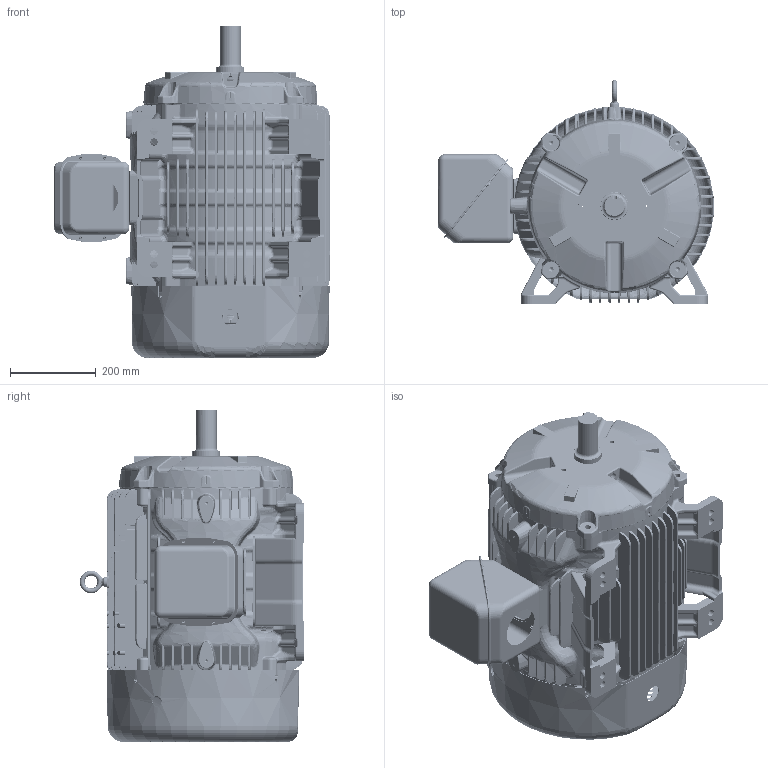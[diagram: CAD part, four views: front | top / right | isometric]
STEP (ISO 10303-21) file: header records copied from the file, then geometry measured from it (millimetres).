
FILE_DESCRIPTION((''),'2;1');
FILE_NAME('GP_ASSY_ASM','2014-06-24T',('NMC779F'),('Nidec Motor Corporation'),'PRO/ENGINEER BY PARAMETRIC TECHNOLOGY CORPORATION, 2013150','PRO/ENGINEER BY PARAMETRIC TECHNOLOGY CORPORATION, 2013150','');
FILE_SCHEMA(('CONFIG_CONTROL_DESIGN'));
Products named in the file (10): 0997397; 0649002-001; 0132115; 0424894; 0649001-001; 0997307; 0133166; 0378702; 0378703; GP_ASSY_ASM
Assembly tree (9 placements, depth 2):
  GP_ASSY_ASM
    0997397
    0649002-001
    0132115
    0424894
    0649001-001
    0997307
    0133166
    0378702
    0378703
Bounding box: 641.18 x 522.33 x 772.36 mm (x, y, z)
Volume: 19116869.3 mm3; surface area: 4837100.7 mm2
Topology: 11 solids, 11 shells, 6457 faces, 15997 edges, 9527 vertices
Faces by surface type: bspline 2243, cylinder 1266, plane 1113, torus 804, extrusion 642, cone 213, sphere 176
Entity records: 317556 total; most frequent: CARTESIAN_POINT 184339, ORIENTED_EDGE 31870, DIRECTION 20948, EDGE_CURVE 15935, VERTEX_POINT 9527, AXIS2_PLACEMENT_3D 7881, B_SPLINE_CURVE_WITH_KNOTS 7743, EDGE_LOOP 6766
